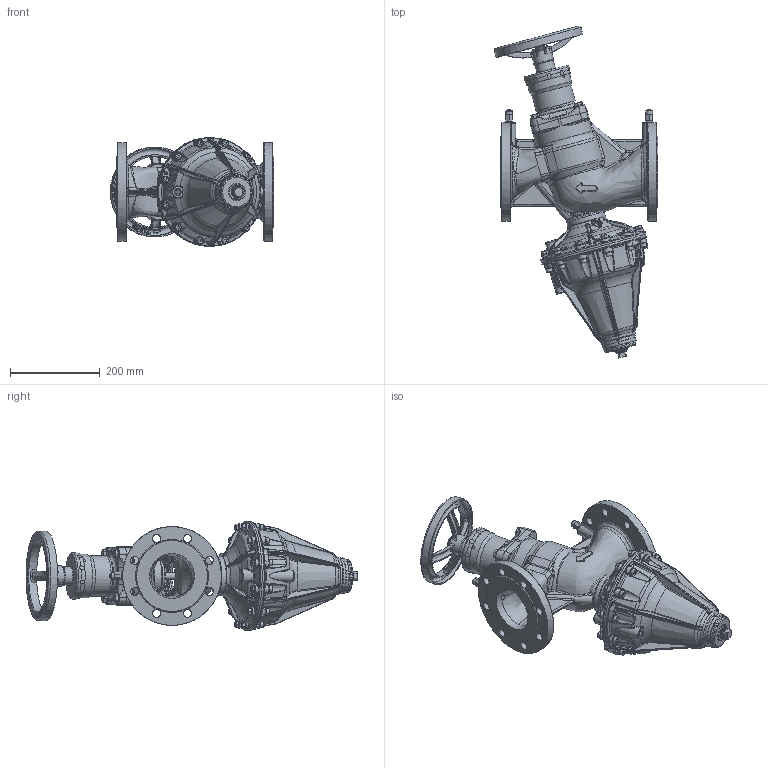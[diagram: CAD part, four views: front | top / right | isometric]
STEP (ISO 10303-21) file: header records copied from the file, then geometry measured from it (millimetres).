
FILE_DESCRIPTION (( 'STEP AP203' ), '1' );
FILE_NAME ('EKOFLUX.M_DN100.STEP', '2013-01-18T08:58:37', ( 'luca.saino' ), ( 'Hewlett-Packard Company' ), 'SwSTEP 2.0', 'SolidWorks 2012', '' );
FILE_SCHEMA (( 'CONFIG_CONTROL_DESIGN' ));
Length unit declared in the file: millimetre
Products named in the file (1): EKOFLUX.M_DN100
Bounding box: 364.16 x 739.38 x 241.52 mm (x, y, z)
Volume: 10711096.6 mm3; surface area: 860954.1 mm2
Topology: 1 solids, 31 shells, 3200 faces, 7604 edges, 4471 vertices
Faces by surface type: bspline 1224, plane 719, cylinder 530, cone 447, torus 243, sphere 37
Full cylindrical faces by diameter (mm): 2 x2, 4 x1, 5 x2, 5.71 x4, 6.5 x2, 6.75 x3, 8 x12, 8.2 x4, 8.5 x14, 10 x2, 11.44 x3, 13 x12, 14.96 x1, 15 x5, 16 x3, 18 x16, 20 x1, 22 x2, 23.9 x1, 25 x2, 25.1 x1, 36 x1, 42 x1, 45 x1, 70 x2, 73 x1, 77 x1, 78 x1, 80 x1, 85.634 x1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
Entity records: 164754 total; most frequent: CARTESIAN_POINT 103332, ORIENTED_EDGE 14402, DIRECTION 10212, EDGE_CURVE 7201, AXIS2_PLACEMENT_3D 4362, VERTEX_POINT 4331, EDGE_LOOP 3538, FACE_OUTER_BOUND 3332
